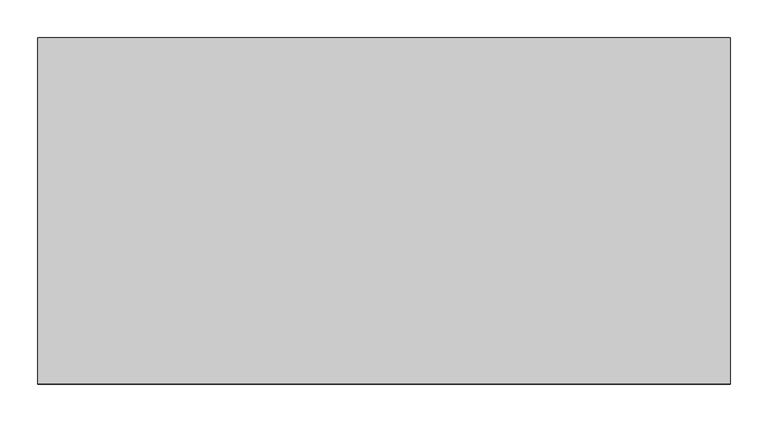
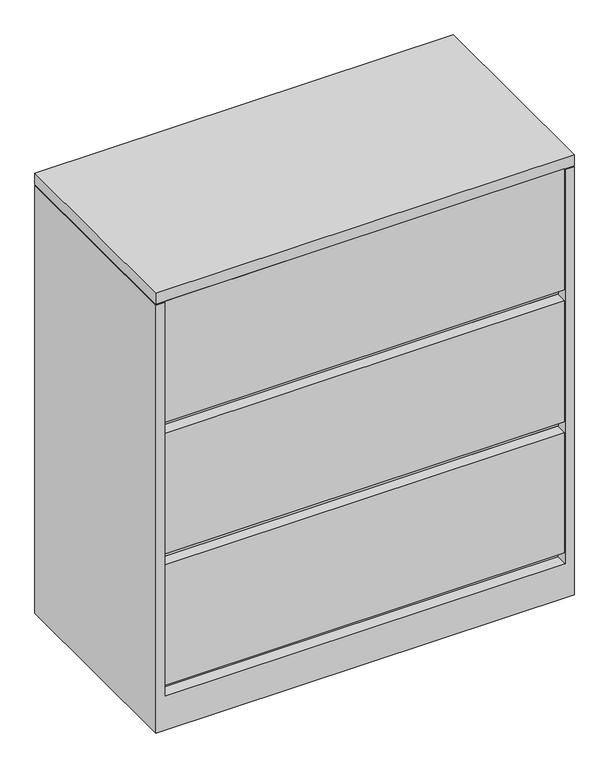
"""IFC4 building model written with IfcOpenShell, lengths in millimetres: furniture geometry, Steelcase - 900 Series - Storage - Lateral File With Roll Out Shelf - Flush Steel : 40H x 36W."""

from ifc_helpers import new_model, si_unit, frame, origin, place, context, project, spatial, polyline, outline, extrude, faceted_brep, source, transform, mapped, element, save


def furniture_a2baafba(model_context):
    return source(origin(), model_context, "Body", "SolidModel", [
        faceted_brep([(895.0960184, -25.2721219, 989.076), (895.0960184, -457.2, 989.076), (914.4, -457.2, 989.076), (914.4, 0.0, 989.076), (0.0, 0.0, 989.076), (0.0, -457.2, 989.076), (19.3039998, -457.2, 989.076), (19.3039998, -25.2721219, 989.076), (0.0, -457.2, 0.0), (0.0, 0.0, 0.0), (914.4, 0.0, 0.0), (914.4, -457.2, 0.0), (895.0960184, -25.2721219, 406.7048), (895.0960184, -431.800255, 406.7048), (895.0960184, -431.800255, 381.254), (895.0960184, -25.2721219, 381.254), (895.0960184, -25.2721219, 103.3780013), (895.0960184, -430.275847, 103.3780013), (895.0960184, -430.275847, 77.9779983), (895.0960184, -457.2, 77.9779983), (19.3039998, -457.2, 77.9779983), (19.3039998, -430.275847, 77.9779983), (19.3039998, -430.275847, 103.3780013), (19.3039998, -25.2721219, 103.3780013), (19.3039998, -25.2721219, 381.254), (19.3039998, -431.800255, 381.254), (19.3039998, -431.800255, 406.7048), (19.3039998, -25.2721219, 406.7048)], [[[0, 1, 2, 3, 4, 5, 6, 7]], [[8, 9, 10, 11]], [[1, 0, 12, 13, 14, 15, 16, 17, 18, 19]], [[2, 1, 19, 20, 6, 5, 8, 11]], [[3, 2, 11, 10]], [[4, 3, 10, 9]], [[5, 4, 9, 8]], [[7, 6, 20, 21, 22, 23, 24, 25, 26, 27]], [[0, 7, 27, 12]], [[16, 15, 24, 23]], [[18, 21, 20, 19]], [[22, 17, 16, 23]], [[21, 18, 17, 22]], [[26, 13, 12, 27]], [[13, 26, 25, 14]], [[14, 25, 24, 15]]]),
        extrude(outline(polyline([(895.0960184, -25.2721219), (895.0960184, -431.800255), (19.3039998, -431.800255), (19.3039998, -25.2721219), (895.0960184, -25.2721219)])), frame((0.0, 0.0, 686.1048), z_axis=(0.0, 0.0, 1.0), x_axis=(1.0, 0.0, 0.0)), (0.0, 0.0, 1.0), 25.4),
        extrude(outline(polyline([(893.5722015, -457.2), (20.8289612, -457.2), (20.8289612, -431.800255), (893.5722015, -431.800255), (893.5722015, -457.2)])), frame((0.0, 0.0, 711.5048), z_axis=(0.0, 0.0, 1.0), x_axis=(1.0, 0.0, 0.0)), (0.0, 0.0, 1.0), 279.4),
        faceted_brep([(914.4, 0.0, 1016.0), (0.0, 0.0, 1016.0), (0.0, -457.2, 1016.0), (914.4, -457.2, 1016.0), (914.4, 0.0, 990.5999516), (914.4, -457.2, 990.5999516), (0.0, -457.2, 990.5999516), (0.0, 0.0, 990.5999516), (895.0960184, -25.2721219, 990.5999516), (20.8289612, -25.2721219, 990.5999516), (20.8289612, -415.9241219, 990.5999516), (895.0960184, -415.9241219, 990.5999516), (895.0960184, -25.2721219, 989.076), (895.0960184, -415.9241219, 989.076), (20.8289612, -415.9241219, 989.076), (20.8289612, -25.2721219, 989.076)], [[[0, 1, 2, 3]], [[4, 5, 6, 7], [8, 9, 10, 11]], [[1, 0, 4, 7]], [[2, 1, 7, 6]], [[3, 2, 6, 5]], [[0, 3, 5, 4]], [[12, 13, 14, 15]], [[12, 15, 9, 8]], [[15, 14, 10, 9]], [[14, 13, 11, 10]], [[13, 12, 8, 11]]]),
        extrude(outline(polyline([(893.5722015, -457.2), (20.8289612, -457.2), (20.8289612, -431.800255), (893.5722015, -431.800255), (893.5722015, -457.2)])), frame((0.0, 0.0, 103.3780013), z_axis=(0.0, 0.0, 1.0), x_axis=(1.0, 0.0, 0.0)), (0.0, 0.0, 1.0), 277.8759987),
        extrude(outline(polyline([(893.5722015, -457.2), (20.8289612, -457.2), (20.8289612, -431.800255), (893.5722015, -431.800255), (893.5722015, -457.2)])), frame((0.0, 0.0, 406.7048), z_axis=(0.0, 0.0, 1.0), x_axis=(1.0, 0.0, 0.0)), (0.0, 0.0, 1.0), 279.4),
    ])


if __name__ == "__main__":
    model = new_model("IFC4")
    model_context = context("Model", 3, world=origin())
    ifc_project = project(units=[si_unit("LENGTHUNIT", "METRE", prefix="MILLI")], contexts=[model_context])
    site = spatial("IfcSite", under=ifc_project)
    building = spatial("IfcBuilding", under=site)
    placement = place(None, origin())
    furniture_shape = furniture_a2baafba(model_context)
    element("IfcFurniture", 1, ObjectType="Steelcase - 900 Series - Storage - Lateral File With Roll Out Shelf - Flush Steel : 40H x 36W", at=placement, inside=building, context=model_context, shape_type="MappedRepresentation", body=[
        mapped(furniture_shape, transform((0.0, 0.0, 0.0), x_axis=(1.0, 0.0, 0.0), y_axis=(0.0, 1.0, 0.0), z_axis=(0.0, 0.0, 1.0))),
    ])
    save(model, "model.ifc")
